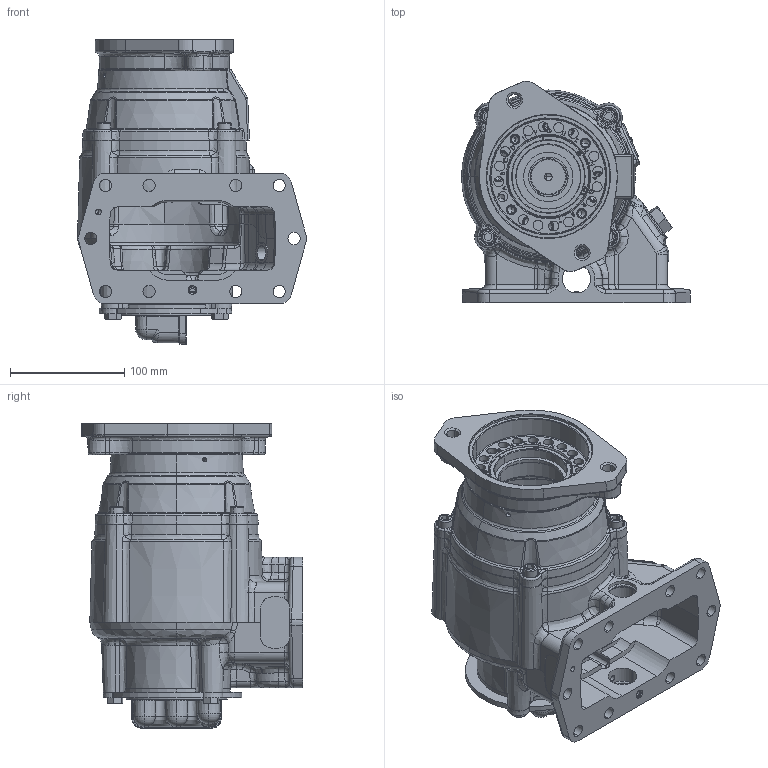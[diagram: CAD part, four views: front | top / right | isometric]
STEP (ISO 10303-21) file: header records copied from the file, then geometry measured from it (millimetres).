
FILE_DESCRIPTION (( 'STEP AP203' ), '1' );
FILE_NAME ('A30-A10XX-MX3PSPX.STEP', '2023-03-31T14:46:21', ( '' ), ( '' ), 'SwSTEP 2.0', 'SolidWorks 2021', '' );
FILE_SCHEMA (( 'CONFIG_CONTROL_DESIGN' ));
Length unit declared in the file: inch
Products named in the file (10): 15T65391DB3; 19T3314_RearCover_HexHeadCapScrew_19T33134; 14T65650; 19T36588_19T36588; 25T35999TMP; RemoteMountRearCover; A30-A10XX-MX3PSPX; 01T43433_3Arrangement; 15T64348_DIECAST DESIGN; Part6^A30-A10XX-MX3PSPX
Assembly tree (13 placements, depth 2):
  A30-A10XX-MX3PSPX
    01T43433_3Arrangement
    14T65650
    15T65391DB3
    19T36588_19T36588  x4
    RemoteMountRearCover
    15T64348_DIECAST DESIGN
    19T3314_RearCover_HexHeadCapScrew_19T33134  x3
    25T35999TMP
  Part6^A30-A10XX-MX3PSPX
Bounding box: 200.59 x 193.69 x 267.09 mm (x, y, z)
Volume: 629641.6 mm3; surface area: 416626.3 mm2
Topology: 13 solids, 25 shells, 2773 faces, 6859 edges, 4192 vertices
Faces by surface type: plane 847, bspline 838, cylinder 580, cone 334, torus 162, sphere 12
Entity records: 126625 total; most frequent: CARTESIAN_POINT 68004, ORIENTED_EDGE 13038, DIRECTION 10315, EDGE_CURVE 6528, VERTEX_POINT 4049, AXIS2_PLACEMENT_3D 3796, EDGE_LOOP 2936, VECTOR 2723
